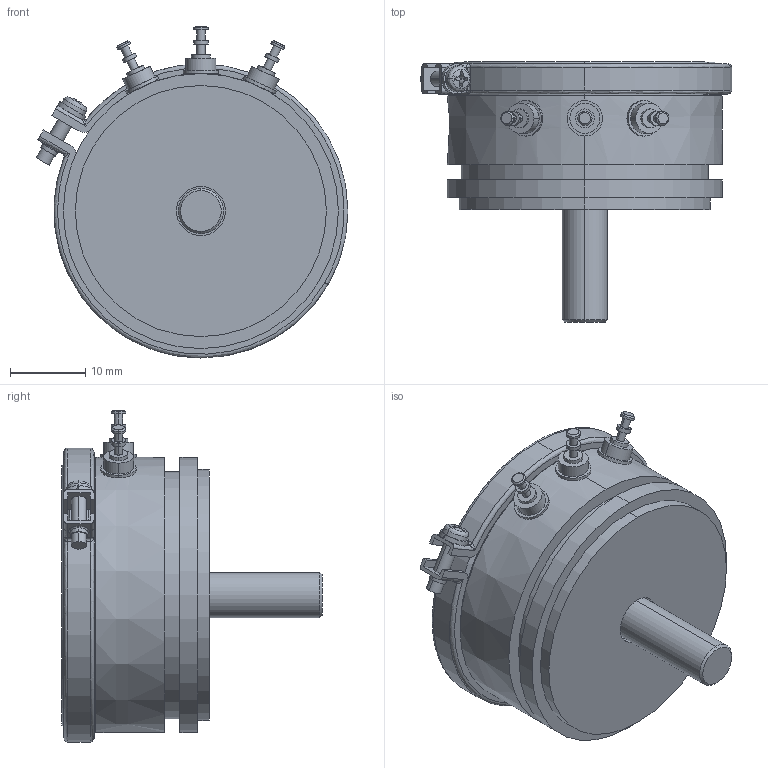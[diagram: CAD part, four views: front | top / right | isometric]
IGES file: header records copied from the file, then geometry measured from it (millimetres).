
Start section: SolidWorks IGES file using analytic representation for surfaces
Global section: file name: O:\08-Produkte_DatBlät&Beiblät&PrLi&Appl&Wettb\8-1 Megatron\8-1-09 Potentiometer\8-1-9-1 Datenblätter\MCPxx\MCP40 STEP;IGES\MCP40.IGS; native system: SolidWorks 2007; preprocessor: SolidWorks 2007; author: AlessandroC; date: 100914.093444; units: millimetre
Bounding box: 41.35 x 34.5 x 44.05 mm (x, y, z)
Volume: 12204.8 mm3; surface area: 11071.5 mm2
Topology: 7 solids, 7 shells, 795 faces, 2163 edges, 1411 vertices
Faces by surface type: revolution 442, plane 339, bspline 14
